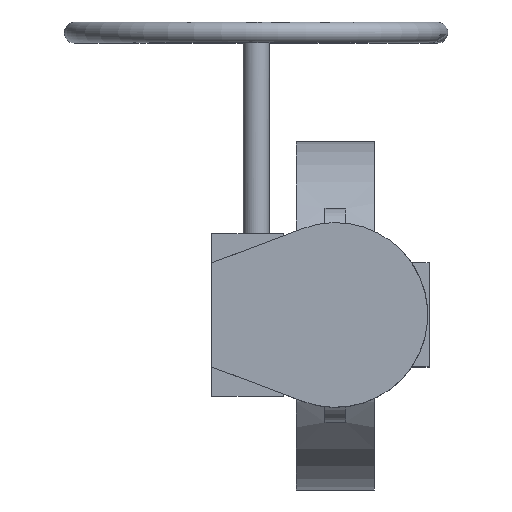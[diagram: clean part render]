
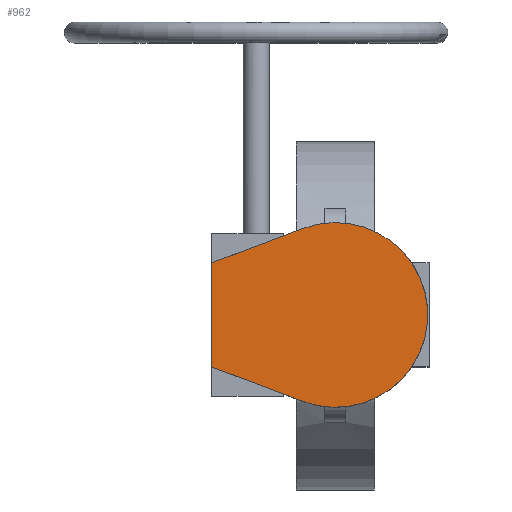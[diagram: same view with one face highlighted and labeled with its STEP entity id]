
A CAD part, top view. The second image highlights one B-rep face of the part: STEP entity #962.
In plain terms, the highlighted planar face has unit normal (0, 0, 1) as drawn and (1, 0, 0) by its records, which use the part's own axes.
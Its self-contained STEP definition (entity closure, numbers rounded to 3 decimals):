
#962=ADVANCED_FACE('',(#6681),#6683,.T.);
#6681=FACE_BOUND('',#6682,.T.);
#6682=EDGE_LOOP('',(#11447,#11448,#11449,#11450));
#6683=PLANE('',#6684);
#6684=AXIS2_PLACEMENT_3D('',#6685,#6686,#6687);
#6685=CARTESIAN_POINT('',(37.,0.,0.));
#6686=DIRECTION('',(1.,0.,0.));
#6687=DIRECTION('',(0.,1.,0.));
#11447=ORIENTED_EDGE('',*,*,#13888,.T.);
#11448=ORIENTED_EDGE('',*,*,#13884,.T.);
#11449=ORIENTED_EDGE('',*,*,#13877,.T.);
#11450=ORIENTED_EDGE('',*,*,#13872,.T.);
#13872=EDGE_CURVE('',#17771,#17769,#17772,.T.);
#13877=EDGE_CURVE('',#17779,#17771,#17780,.T.);
#13884=EDGE_CURVE('',#17792,#17779,#17793,.T.);
#13888=EDGE_CURVE('',#17769,#17792,#17798,.T.);
#17769=VERTEX_POINT('',#28091);
#17771=VERTEX_POINT('',#28095);
#17772=LINE('',#28096,#28097);
#17779=VERTEX_POINT('',#28113);
#17780=LINE('',#28114,#28115);
#17792=VERTEX_POINT('',#28140);
#17793=LINE('',#28141,#28142);
#17798=CIRCLE('',#28154,71.);
#28091=CARTESIAN_POINT('',(37.,-66.416,25.099));
#28095=CARTESIAN_POINT('',(37.,-40.,95.));
#28096=CARTESIAN_POINT('',(37.,-40.,95.));
#28097=VECTOR('',#28098,1.);
#28098=DIRECTION('',(0.,-0.354,-0.935));
#28113=CARTESIAN_POINT('',(37.,40.,95.));
#28114=CARTESIAN_POINT('',(37.,40.,95.));
#28115=VECTOR('',#28116,1.);
#28116=DIRECTION('',(0.,-1.,0.));
#28140=CARTESIAN_POINT('',(37.,66.416,25.099));
#28141=CARTESIAN_POINT('',(37.,66.416,25.099));
#28142=VECTOR('',#28143,1.);
#28143=DIRECTION('',(0.,-0.354,0.935));
#28154=AXIS2_PLACEMENT_3D('',#28155,#28156,#28157);
#28155=CARTESIAN_POINT('',(37.,0.,0.));
#28156=DIRECTION('',(1.,0.,0.));
#28157=DIRECTION('',(0.,-0.935,0.354));
